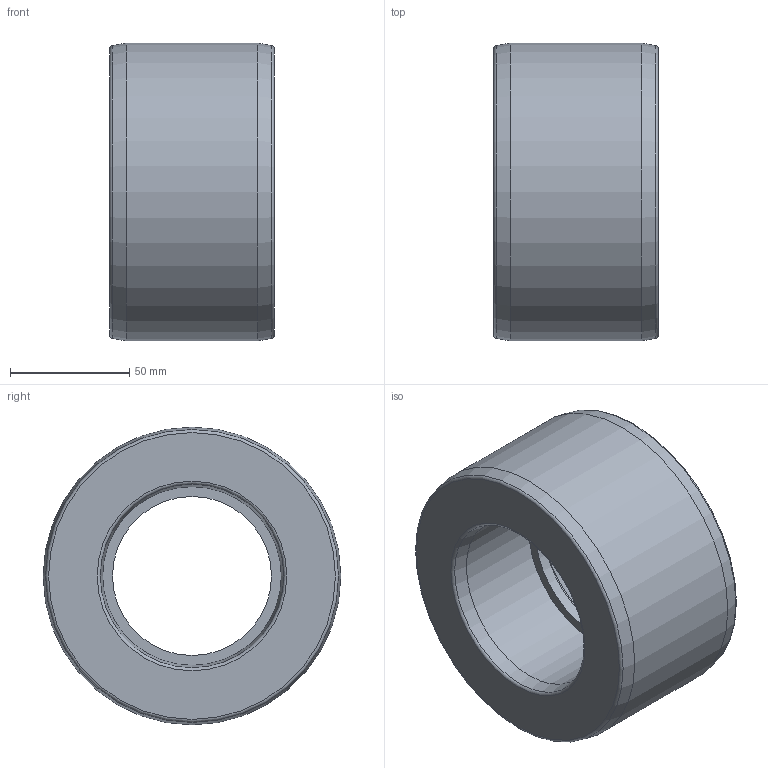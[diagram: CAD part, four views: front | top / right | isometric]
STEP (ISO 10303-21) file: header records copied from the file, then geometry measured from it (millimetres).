
FILE_DESCRIPTION(/* description */ ('PLASSON BUSHING-CEMENT PVC 125-75'),/* implementation_level */ '2;1');
FILE_NAME(/* name */ 'C:\Dropbox\KIMPROJECTS-Inventor\99-16-3568-Processing\PVC Catalog 2017\050900\050900125075.ipt.stp',/* time_stamp */ '2017-12-07T15:59:36+02:00',/* author */ ('KIM'),/* organization */ (''),/* preprocessor_version */ 'ST-DEVELOPER v15.6',/* originating_system */ 'Autodesk Inventor 2015',/* authorisation */ '');
FILE_SCHEMA (('AUTOMOTIVE_DESIGN { 1 0 10303 214 3 1 1 }'));
Length unit declared in the file: millimetre
Products named in the file (1): 050900125075
Bounding box: 69 x 125 x 125 mm (x, y, z)
Volume: 532976.1 mm3; surface area: 57310 mm2
Topology: 1 solids, 1 shells, 15 faces, 27 edges, 15 vertices
Faces by surface type: torus 5, cone 4, cylinder 3, plane 3
Full cylindrical faces by diameter (mm): 66.75 x1, 75 x1, 125 x1
Entity records: 332 total; most frequent: DIRECTION 62, CARTESIAN_POINT 46, AXIS2_PLACEMENT_3D 31, EDGE_LOOP 30, ORIENTED_EDGE 30, FACE_BOUND 15, FACE_OUTER_BOUND 15, CIRCLE 15
